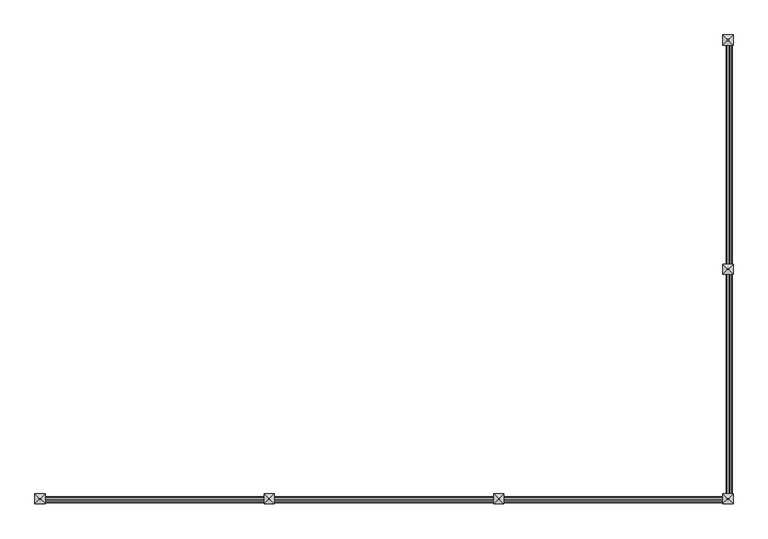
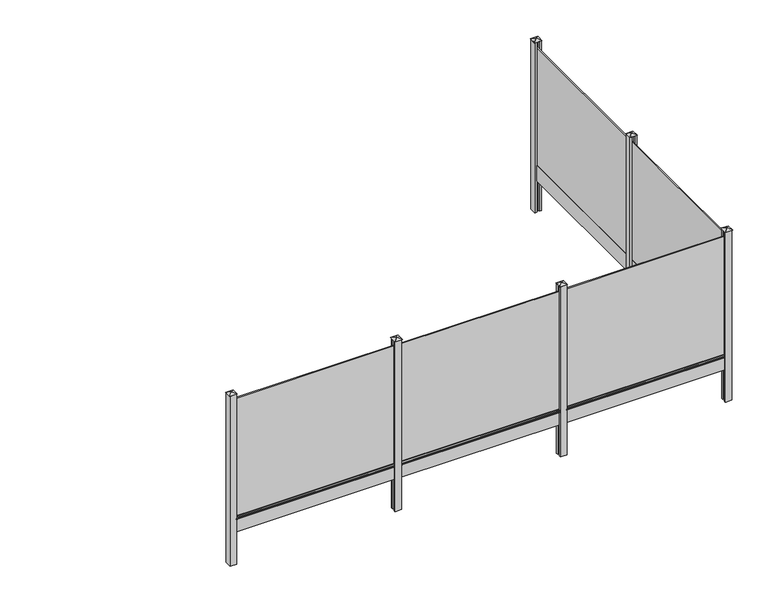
"""IFC4 building model written with IfcOpenShell, lengths in millimetres: railing geometry, Mehat - Railing - Plaque de Soubassement - Classique pour clôture rigide - 247.5x25x4 cm."""

from ifc_helpers import new_model, si_unit, point, frame, frame_2d, origin, origin_with_axes, place, context, project, spatial, polyline, circle_curve, trimmed, segment, composite_curve, outline, extrude, faceted_brep, source, transform, mapped, element, save


def railing_e092d7fd(model_context):
    return source(origin(), model_context, "Body", "SolidModel", [
        extrude(outline(polyline([(24896.2516516, -10852.4943936), (24879.2516516, -10852.4943936), (24879.2516516, -8377.4943936), (24896.2516516, -8377.4943936), (24896.2516516, -10852.4943936)])), frame((0.0, 0.0, 250.0), z_axis=(0.0, 0.0, 1.0), x_axis=(1.0, 0.0, 0.0)), (0.0, 0.0, 1.0), 1900.0),
        extrude(outline(polyline([(24907.7516516, -10852.4943936), (24867.7516516, -10852.4943936), (24867.7516516, -8377.4943936), (24907.7516516, -8377.4943936), (24907.7516516, -10852.4943936)])), origin_with_axes(), (0.0, 0.0, 1.0), 250.0),
        extrude(outline(composite_curve([segment(polyline([(210.0, 24907.7516516), (217.1937129, 24929.3327905)]), True, "CONTINUOUS"), segment(trimmed(circle_curve(frame_2d((221.9371294, 24927.7516516)), 5.0), [point((217.1937129, 24929.3327905))], [point((221.9371294, 24932.7516516))], False, "CARTESIAN"), True, "CONTINUOUS"), segment(polyline([(221.9371294, 24932.7516516), (238.0628706, 24932.7516516)]), True, "CONTINUOUS"), segment(trimmed(circle_curve(frame_2d((238.0628706, 24927.7516516)), 5.0), [point((238.0628706, 24932.7516516))], [point((242.8062871, 24929.3327905))], False, "CARTESIAN"), True, "CONTINUOUS"), segment(polyline([(242.8062871, 24929.3327905), (250.0, 24907.7516516), (210.0, 24907.7516516)]), True, "CONTINUOUS")], self_intersect=False)), frame((0.0, -10827.4943936, 0.0), z_axis=(0.0, 1.0, 0.0), x_axis=(0.0, 0.0, 1.0)), (0.0, 0.0, 1.0), 2425.0),
        extrude(outline(polyline([(24937.7516516, -10927.4943936), (24907.7516516, -10927.4943936), (24907.7516516, -10902.4943936), (24867.7516516, -10902.4943936), (24867.7516516, -10927.4943936), (24837.7516516, -10927.4943936), (24837.7516516, -10827.4943936), (24867.7516516, -10827.4943936), (24867.7516516, -10852.4943936), (24907.7516516, -10852.4943936), (24907.7516516, -10827.4943936), (24937.7516516, -10827.4943936), (24937.7516516, -10927.4943936)])), frame((0.0, 0.0, -500.0), z_axis=(0.0, 0.0, 1.0), x_axis=(1.0, 0.0, 0.0)), (0.0, 0.0, 1.0), 2750.0),
        faceted_brep([(24881.3471055, -10871.1443936, 2275.4), (24881.3471055, -10883.8443936, 2275.4), (24894.0471055, -10883.8443936, 2275.4), (24894.0471055, -10871.1443936, 2275.4), (24831.4016516, -10821.1443936, 2250.0), (24944.1016516, -10821.1443936, 2250.0), (24944.1016516, -10933.8443936, 2250.0), (24831.4016516, -10933.8443936, 2250.0)], [[[0, 1, 2, 3]], [[4, 5, 6, 7]], [[4, 0, 3, 5]], [[5, 3, 2, 6]], [[6, 2, 1, 7]], [[7, 1, 0, 4]]]),
        extrude(outline(polyline([(24896.2516516, -13377.4943936), (24879.2516516, -13377.4943936), (24879.2516516, -10902.4943936), (24896.2516516, -10902.4943936), (24896.2516516, -13377.4943936)])), frame((0.0, 0.0, 250.0), z_axis=(0.0, 0.0, 1.0), x_axis=(1.0, 0.0, 0.0)), (0.0, 0.0, 1.0), 1900.0),
        extrude(outline(polyline([(24907.7516516, -13377.4943936), (24867.7516516, -13377.4943936), (24867.7516516, -10902.4943936), (24907.7516516, -10902.4943936), (24907.7516516, -13377.4943936)])), origin_with_axes(), (0.0, 0.0, 1.0), 250.0),
        extrude(outline(composite_curve([segment(polyline([(210.0, 24907.7516516), (217.1937129, 24929.3327905)]), True, "CONTINUOUS"), segment(trimmed(circle_curve(frame_2d((221.9371294, 24927.7516516)), 5.0), [point((217.1937129, 24929.3327905))], [point((221.9371294, 24932.7516516))], False, "CARTESIAN"), True, "CONTINUOUS"), segment(polyline([(221.9371294, 24932.7516516), (238.0628706, 24932.7516516)]), True, "CONTINUOUS"), segment(trimmed(circle_curve(frame_2d((238.0628706, 24927.7516516)), 5.0), [point((238.0628706, 24932.7516516))], [point((242.8062871, 24929.3327905))], False, "CARTESIAN"), True, "CONTINUOUS"), segment(polyline([(242.8062871, 24929.3327905), (250.0, 24907.7516516), (210.0, 24907.7516516)]), True, "CONTINUOUS")], self_intersect=False)), frame((0.0, -13352.4943936, 0.0), z_axis=(0.0, 1.0, 0.0), x_axis=(0.0, 0.0, 1.0)), (0.0, 0.0, 1.0), 2425.0),
        extrude(outline(polyline([(22387.7516516, -13410.9943936), (22387.7516516, -13393.9943936), (24862.7516516, -13393.9943936), (24862.7516516, -13410.9943936), (22387.7516516, -13410.9943936)])), frame((0.0, 0.0, 250.0), z_axis=(0.0, 0.0, 1.0), x_axis=(1.0, 0.0, 0.0)), (0.0, 0.0, 1.0), 1900.0),
        extrude(outline(polyline([(22387.7516516, -13422.4943936), (22387.7516516, -13382.4943936), (24862.7516516, -13382.4943936), (24862.7516516, -13422.4943936), (22387.7516516, -13422.4943936)])), origin_with_axes(), (0.0, 0.0, 1.0), 250.0),
        extrude(outline(composite_curve([segment(polyline([(-13422.4943936, 210.0), (-13444.0755325, 217.1937129)]), True, "CONTINUOUS"), segment(trimmed(circle_curve(frame_2d((-13442.4943936, 221.9371294)), 5.0), [point((-13444.0755325, 217.1937129))], [point((-13447.4943936, 221.9371294))], False, "CARTESIAN"), True, "CONTINUOUS"), segment(polyline([(-13447.4943936, 221.9371294), (-13447.4943936, 238.0628706)]), True, "CONTINUOUS"), segment(trimmed(circle_curve(frame_2d((-13442.4943936, 238.0628706)), 5.0), [point((-13447.4943936, 238.0628706))], [point((-13444.0755325, 242.8062871))], False, "CARTESIAN"), True, "CONTINUOUS"), segment(polyline([(-13444.0755325, 242.8062871), (-13422.4943936, 250.0), (-13422.4943936, 210.0)]), True, "CONTINUOUS")], self_intersect=False)), frame((22412.7516516, 0.0, 0.0), z_axis=(1.0, 0.0, 0.0), x_axis=(0.0, 1.0, 0.0)), (0.0, 0.0, 1.0), 2425.0),
        extrude(outline(polyline([(22312.7516516, -13452.4943936), (22312.7516516, -13422.4943936), (22337.7516516, -13422.4943936), (22337.7516516, -13382.4943936), (22312.7516516, -13382.4943936), (22312.7516516, -13352.4943936), (22412.7516516, -13352.4943936), (22412.7516516, -13382.4943936), (22387.7516516, -13382.4943936), (22387.7516516, -13422.4943936), (22412.7516516, -13422.4943936), (22412.7516516, -13452.4943936), (22312.7516516, -13452.4943936)])), frame((0.0, 0.0, -500.0), z_axis=(0.0, 0.0, 1.0), x_axis=(1.0, 0.0, 0.0)), (0.0, 0.0, 1.0), 2750.0),
        faceted_brep([(22369.1016516, -13396.0898475, 2275.4), (22356.4016516, -13396.0898475, 2275.4), (22356.4016516, -13408.7898475, 2275.4), (22369.1016516, -13408.7898475, 2275.4), (22419.1016516, -13346.1443936, 2250.0), (22419.1016516, -13458.8443936, 2250.0), (22306.4016516, -13458.8443936, 2250.0), (22306.4016516, -13346.1443936, 2250.0)], [[[0, 1, 2, 3]], [[4, 5, 6, 7]], [[4, 0, 3, 5]], [[5, 3, 2, 6]], [[6, 2, 1, 7]], [[7, 1, 0, 4]]]),
        extrude(outline(polyline([(19862.7516516, -13410.9943936), (19862.7516516, -13393.9943936), (22337.7516516, -13393.9943936), (22337.7516516, -13410.9943936), (19862.7516516, -13410.9943936)])), frame((0.0, 0.0, 250.0), z_axis=(0.0, 0.0, 1.0), x_axis=(1.0, 0.0, 0.0)), (0.0, 0.0, 1.0), 1900.0),
        extrude(outline(polyline([(19862.7516516, -13422.4943936), (19862.7516516, -13382.4943936), (22337.7516516, -13382.4943936), (22337.7516516, -13422.4943936), (19862.7516516, -13422.4943936)])), origin_with_axes(), (0.0, 0.0, 1.0), 250.0),
        extrude(outline(composite_curve([segment(polyline([(-13422.4943936, 210.0), (-13444.0755325, 217.1937129)]), True, "CONTINUOUS"), segment(trimmed(circle_curve(frame_2d((-13442.4943936, 221.9371294)), 5.0), [point((-13444.0755325, 217.1937129))], [point((-13447.4943936, 221.9371294))], False, "CARTESIAN"), True, "CONTINUOUS"), segment(polyline([(-13447.4943936, 221.9371294), (-13447.4943936, 238.0628706)]), True, "CONTINUOUS"), segment(trimmed(circle_curve(frame_2d((-13442.4943936, 238.0628706)), 5.0), [point((-13447.4943936, 238.0628706))], [point((-13444.0755325, 242.8062871))], False, "CARTESIAN"), True, "CONTINUOUS"), segment(polyline([(-13444.0755325, 242.8062871), (-13422.4943936, 250.0), (-13422.4943936, 210.0)]), True, "CONTINUOUS")], self_intersect=False)), frame((19887.7516516, 0.0, 0.0), z_axis=(1.0, 0.0, 0.0), x_axis=(0.0, 1.0, 0.0)), (0.0, 0.0, 1.0), 2425.0),
        extrude(outline(polyline([(19787.7516516, -13452.4943936), (19787.7516516, -13422.4943936), (19812.7516516, -13422.4943936), (19812.7516516, -13382.4943936), (19787.7516516, -13382.4943936), (19787.7516516, -13352.4943936), (19887.7516516, -13352.4943936), (19887.7516516, -13382.4943936), (19862.7516516, -13382.4943936), (19862.7516516, -13422.4943936), (19887.7516516, -13422.4943936), (19887.7516516, -13452.4943936), (19787.7516516, -13452.4943936)])), frame((0.0, 0.0, -500.0), z_axis=(0.0, 0.0, 1.0), x_axis=(1.0, 0.0, 0.0)), (0.0, 0.0, 1.0), 2750.0),
        faceted_brep([(19844.1016516, -13396.0898475, 2275.4), (19831.4016516, -13396.0898475, 2275.4), (19831.4016516, -13408.7898475, 2275.4), (19844.1016516, -13408.7898475, 2275.4), (19894.1016516, -13346.1443936, 2250.0), (19894.1016516, -13458.8443936, 2250.0), (19781.4016516, -13458.8443936, 2250.0), (19781.4016516, -13346.1443936, 2250.0)], [[[0, 1, 2, 3]], [[4, 5, 6, 7]], [[4, 0, 3, 5]], [[5, 3, 2, 6]], [[6, 2, 1, 7]], [[7, 1, 0, 4]]]),
        extrude(outline(polyline([(17337.7516516, -13410.9943936), (17337.7516516, -13393.9943936), (19812.7516516, -13393.9943936), (19812.7516516, -13410.9943936), (17337.7516516, -13410.9943936)])), frame((0.0, 0.0, 250.0), z_axis=(0.0, 0.0, 1.0), x_axis=(1.0, 0.0, 0.0)), (0.0, 0.0, 1.0), 1900.0),
        extrude(outline(polyline([(17337.7516516, -13422.4943936), (17337.7516516, -13382.4943936), (19812.7516516, -13382.4943936), (19812.7516516, -13422.4943936), (17337.7516516, -13422.4943936)])), origin_with_axes(), (0.0, 0.0, 1.0), 250.0),
        extrude(outline(composite_curve([segment(polyline([(-13422.4943936, 210.0), (-13444.0755325, 217.1937129)]), True, "CONTINUOUS"), segment(trimmed(circle_curve(frame_2d((-13442.4943936, 221.9371294)), 5.0), [point((-13444.0755325, 217.1937129))], [point((-13447.4943936, 221.9371294))], False, "CARTESIAN"), True, "CONTINUOUS"), segment(polyline([(-13447.4943936, 221.9371294), (-13447.4943936, 238.0628706)]), True, "CONTINUOUS"), segment(trimmed(circle_curve(frame_2d((-13442.4943936, 238.0628706)), 5.0), [point((-13447.4943936, 238.0628706))], [point((-13444.0755325, 242.8062871))], False, "CARTESIAN"), True, "CONTINUOUS"), segment(polyline([(-13444.0755325, 242.8062871), (-13422.4943936, 250.0), (-13422.4943936, 210.0)]), True, "CONTINUOUS")], self_intersect=False)), frame((17362.7516516, 0.0, 0.0), z_axis=(1.0, 0.0, 0.0), x_axis=(0.0, 1.0, 0.0)), (0.0, 0.0, 1.0), 2425.0),
        extrude(outline(polyline([(24837.7516516, -13452.4943936), (24837.7516516, -13422.4943936), (24862.7516516, -13422.4943936), (24862.7516516, -13382.4943936), (24837.7516516, -13382.4943936), (24837.7516516, -13352.4943936), (24867.7516516, -13352.4943936), (24867.7516516, -13377.4943936), (24907.7516516, -13377.4943936), (24907.7516516, -13352.4943936), (24937.7516516, -13352.4943936), (24937.7516516, -13452.4943936), (24837.7516516, -13452.4943936)])), frame((0.0, 0.0, -500.0), z_axis=(0.0, 0.0, 1.0), x_axis=(1.0, 0.0, 0.0)), (0.0, 0.0, 1.0), 2750.0),
        faceted_brep([(24894.1016516, -13396.0898475, 2275.4), (24881.4016516, -13396.0898475, 2275.4), (24881.4016516, -13408.7898475, 2275.4), (24894.1016516, -13408.7898475, 2275.4), (24944.1016516, -13346.1443936, 2250.0), (24944.1016516, -13458.8443936, 2250.0), (24831.4016516, -13458.8443936, 2250.0), (24831.4016516, -13346.1443936, 2250.0)], [[[0, 1, 2, 3]], [[4, 5, 6, 7]], [[4, 0, 3, 5]], [[5, 3, 2, 6]], [[6, 2, 1, 7]], [[7, 1, 0, 4]]]),
        extrude(outline(polyline([(24937.7516516, -8402.4943936), (24907.7516516, -8402.4943936), (24907.7516516, -8377.4943936), (24867.7516516, -8377.4943936), (24867.7516516, -8402.4943936), (24837.7516516, -8402.4943936), (24837.7516516, -8302.4943936), (24937.7516516, -8302.4943936), (24937.7516516, -8402.4943936)])), frame((0.0, 0.0, -500.0), z_axis=(0.0, 0.0, 1.0), x_axis=(1.0, 0.0, 0.0)), (0.0, 0.0, 1.0), 2750.0),
        faceted_brep([(24881.3471055, -8346.1443936, 2275.4), (24881.3471055, -8358.8443936, 2275.4), (24894.0471055, -8358.8443936, 2275.4), (24894.0471055, -8346.1443936, 2275.4), (24831.4016516, -8296.1443936, 2250.0), (24944.1016516, -8296.1443936, 2250.0), (24944.1016516, -8408.8443936, 2250.0), (24831.4016516, -8408.8443936, 2250.0)], [[[0, 1, 2, 3]], [[4, 5, 6, 7]], [[4, 0, 3, 5]], [[5, 3, 2, 6]], [[6, 2, 1, 7]], [[7, 1, 0, 4]]]),
        extrude(outline(polyline([(17262.7516516, -13452.4943936), (17262.7516516, -13352.4943936), (17362.7516516, -13352.4943936), (17362.7516516, -13382.4943936), (17337.7516516, -13382.4943936), (17337.7516516, -13422.4943936), (17362.7516516, -13422.4943936), (17362.7516516, -13452.4943936), (17262.7516516, -13452.4943936)])), frame((0.0, 0.0, -500.0), z_axis=(0.0, 0.0, 1.0), x_axis=(1.0, 0.0, 0.0)), (0.0, 0.0, 1.0), 2750.0),
        faceted_brep([(17319.1016516, -13396.0898475, 2275.4), (17306.4016516, -13396.0898475, 2275.4), (17306.4016516, -13408.7898475, 2275.4), (17319.1016516, -13408.7898475, 2275.4), (17369.1016516, -13346.1443936, 2250.0), (17369.1016516, -13458.8443936, 2250.0), (17256.4016516, -13458.8443936, 2250.0), (17256.4016516, -13346.1443936, 2250.0)], [[[0, 1, 2, 3]], [[4, 5, 6, 7]], [[4, 0, 3, 5]], [[5, 3, 2, 6]], [[6, 2, 1, 7]], [[7, 1, 0, 4]]]),
    ])


if __name__ == "__main__":
    model = new_model("IFC4")
    model_context = context("Model", 3, world=origin())
    ifc_project = project(units=[si_unit("LENGTHUNIT", "METRE", prefix="MILLI")], contexts=[model_context])
    site = spatial("IfcSite", under=ifc_project)
    building = spatial("IfcBuilding", under=site)
    placement = place(None, origin())
    railing_shape = railing_e092d7fd(model_context)
    element("IfcRailing", 1, ObjectType="Mehat - Railing - Plaque de Soubassement - Classique pour clôture rigide - 247.5x25x4 cm", at=placement, inside=building, context=model_context, shape_type="MappedRepresentation", body=[
        mapped(railing_shape, transform((0.0, 0.0, 0.0), x_axis=(1.0, 0.0, 0.0), y_axis=(0.0, 1.0, 0.0), z_axis=(0.0, 0.0, 1.0))),
    ])
    save(model, "model.ifc")
